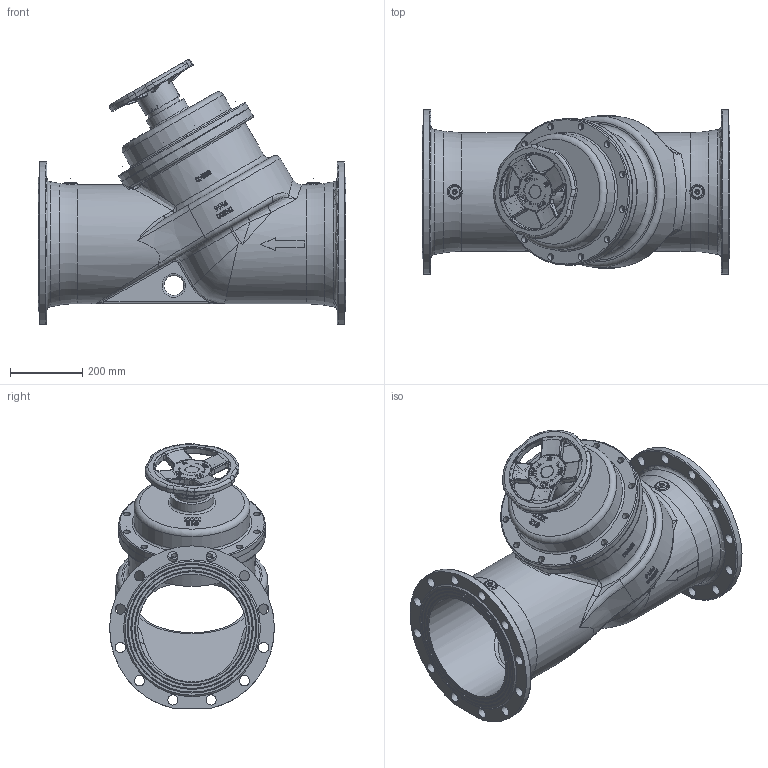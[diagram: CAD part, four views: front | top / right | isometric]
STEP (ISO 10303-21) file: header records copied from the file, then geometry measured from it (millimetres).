
FILE_DESCRIPTION(('STEP AP203'), '1');
FILE_NAME('3D_347-300-16', '', ('UNSPECIFIED'), ('UNSPECIFIED'), 'C3D Converter', 'C3D Toolkit', '');
FILE_SCHEMA(('CONFIG_CONTROL_DESIGN'));
Length unit declared in the file: millimetre
Assembly tree (14 placements, depth 2):
  (unnamed)
    (unnamed)
    (unnamed)
    (unnamed)  x3
    (unnamed)  x2
    (unnamed)
    (unnamed)  x3
    (unnamed)
    (unnamed)  x2
Bounding box: 850 x 454.73 x 730.71 mm (x, y, z)
Volume: 24613827 mm3; surface area: 3217186.6 mm2
Topology: 15 solids, 19 shells, 2451 faces, 6331 edges, 4066 vertices
Faces by surface type: plane 1326, bspline 458, cylinder 388, torus 188, cone 87, sphere 4
Full cylindrical faces by diameter (mm): 0.004 x4, 0.008 x2, 0.011 x2, 0.013 x6, 0.015 x2, 0.016 x12, 0.024 x12, 7 x4, 8 x2, 11 x1, 11.4 x2, 14 x14, 16 x1, 18 x12, 20 x1, 28 x24, 37 x2, 50 x1, 50.6 x1, 55 x1, 60 x1, 78 x1, 90 x2, 96 x1, 99 x1, 103 x1, 120 x1, 211 x1, 284.9 x2, 292 x1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
Entity records: 195709 total; most frequent: CARTESIAN_POINT 124312, ORIENTED_EDGE 11550, DIRECTION 9221, EDGE_CURVE 5775, VERTEX_POINT 3851, AXIS2_PLACEMENT_3D 3187, LINE 2847, VECTOR 2847
